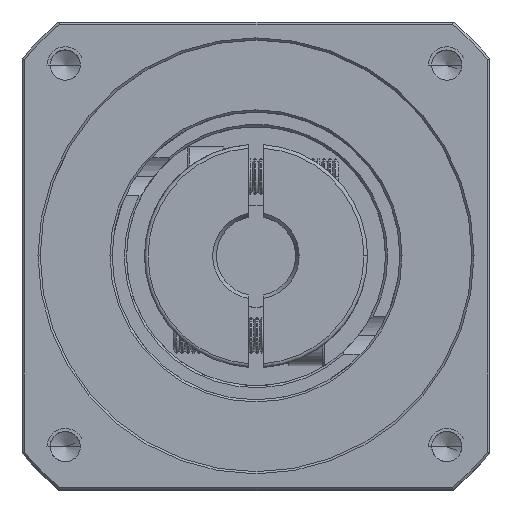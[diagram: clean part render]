
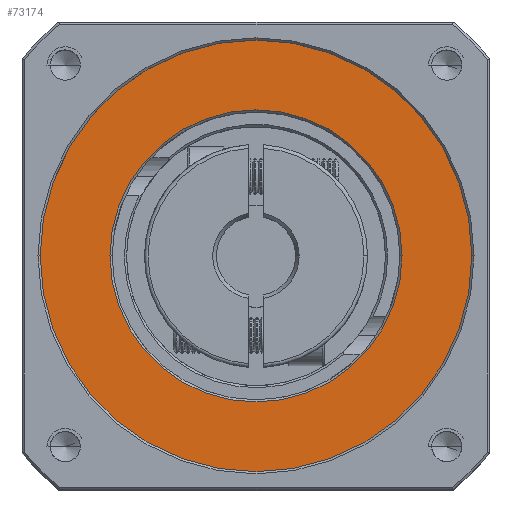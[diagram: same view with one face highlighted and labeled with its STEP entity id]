
A CAD part, top view. The second image highlights one B-rep face of the part: STEP entity #73174.
In plain terms, the highlighted planar face has unit normal (0, 0, 1).
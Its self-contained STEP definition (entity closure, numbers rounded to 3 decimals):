
#728 = AXIS2_PLACEMENT_3D ( 'NONE', #56233, #21699, #72881 ) ;
#925 = CIRCLE ( 'NONE', #94098, 20.3 ) ;
#3352 = EDGE_CURVE ( 'NONE', #83096, #11214, #16612, .T. ) ;
#4490 = ORIENTED_EDGE ( 'NONE', *, *, #3352, .T. ) ;
#7980 = EDGE_CURVE ( 'NONE', #34552, #35846, #76840, .T. ) ;
#9845 = CARTESIAN_POINT ( 'NONE',  ( -41.6, 23.265, 17.333 ) ) ;
#10749 = CARTESIAN_POINT ( 'NONE',  ( -61.9, 23.265, 17.333 ) ) ;
#11111 = PLANE ( 'NONE',  #49650 ) ;
#11214 = VERTEX_POINT ( 'NONE', #9845 ) ;
#13353 = DIRECTION ( 'NONE',  ( 0., 0., 1. ) ) ;
#16612 = CIRCLE ( 'NONE', #79100, 20.3 ) ;
#17098 = EDGE_CURVE ( 'NONE', #11214, #83096, #925, .T. ) ;
#19739 = FACE_BOUND ( 'NONE', #83415, .T. ) ;
#21699 = DIRECTION ( 'NONE',  ( 0., 0., 1. ) ) ;
#21847 = DIRECTION ( 'NONE',  ( 1., 0., 0. ) ) ;
#28863 = AXIS2_PLACEMENT_3D ( 'NONE', #63809, #13353, #21847 ) ;
#34552 = VERTEX_POINT ( 'NONE', #43966 ) ;
#34936 = DIRECTION ( 'NONE',  ( 0., 0., -1. ) ) ;
#35846 = VERTEX_POINT ( 'NONE', #50218 ) ;
#36333 = CIRCLE ( 'NONE', #728, 30. ) ;
#36381 = CARTESIAN_POINT ( 'NONE',  ( -61.9, 23.265, 17.333 ) ) ;
#36921 = DIRECTION ( 'NONE',  ( 1., 0., 0. ) ) ;
#37683 = CARTESIAN_POINT ( 'NONE',  ( -61.9, 23.265, 17.333 ) ) ;
#43966 = CARTESIAN_POINT ( 'NONE',  ( -91.9, 23.265, 17.333 ) ) ;
#49650 = AXIS2_PLACEMENT_3D ( 'NONE', #10749, #52718, #36921 ) ;
#50218 = CARTESIAN_POINT ( 'NONE',  ( -31.9, 23.265, 17.333 ) ) ;
#52718 = DIRECTION ( 'NONE',  ( 0., 0., 1. ) ) ;
#53250 = DIRECTION ( 'NONE',  ( 1., 0., 0. ) ) ;
#53436 = DIRECTION ( 'NONE',  ( 0., 0., -1. ) ) ;
#56233 = CARTESIAN_POINT ( 'NONE',  ( -61.9, 23.265, 17.333 ) ) ;
#61013 = ORIENTED_EDGE ( 'NONE', *, *, #63557, .T. ) ;
#63557 = EDGE_CURVE ( 'NONE', #35846, #34552, #36333, .T. ) ;
#63809 = CARTESIAN_POINT ( 'NONE',  ( -61.9, 23.265, 17.333 ) ) ;
#72881 = DIRECTION ( 'NONE',  ( 1., 0., 0. ) ) ;
#73174 = ADVANCED_FACE ( 'NONE', ( #19739, #106905 ), #11111, .T. ) ;
#76840 = CIRCLE ( 'NONE', #28863, 30. ) ;
#79100 = AXIS2_PLACEMENT_3D ( 'NONE', #36381, #34936, #53250 ) ;
#83096 = VERTEX_POINT ( 'NONE', #88873 ) ;
#83415 = EDGE_LOOP ( 'NONE', ( #93239, #4490 ) ) ;
#88873 = CARTESIAN_POINT ( 'NONE',  ( -82.2, 23.265, 17.333 ) ) ;
#93239 = ORIENTED_EDGE ( 'NONE', *, *, #17098, .T. ) ;
#93338 = EDGE_LOOP ( 'NONE', ( #61013, #108517 ) ) ;
#94098 = AXIS2_PLACEMENT_3D ( 'NONE', #37683, #53436, #96648 ) ;
#96648 = DIRECTION ( 'NONE',  ( 1., 0., 0. ) ) ;
#106905 = FACE_OUTER_BOUND ( 'NONE', #93338, .T. ) ;
#108517 = ORIENTED_EDGE ( 'NONE', *, *, #7980, .T. ) ;
